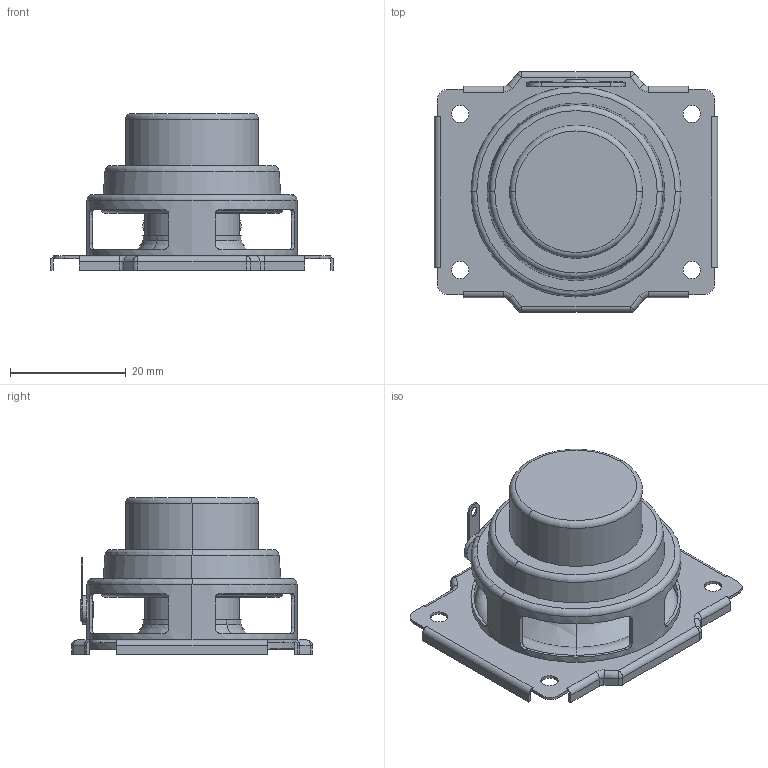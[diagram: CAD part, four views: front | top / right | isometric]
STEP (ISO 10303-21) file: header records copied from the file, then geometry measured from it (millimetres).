
FILE_DESCRIPTION((''),'2;1');
FILE_NAME('042B8A06-E_ASM','2023-09-25T08:33:40',('54257'),(''),'CREO PARAMETRIC BY PTC INC, 2020053','CREO PARAMETRIC BY PTC INC, 2020053','');
FILE_SCHEMA(('CONFIG_CONTROL_DESIGN','SHAPE_APPEARANCE_LAYERS_GROUPS'));
Length unit declared in the file: millimetre
Products named in the file (10): 061-49_9_1_1; U-YOK_1_1_2_1_1; CON-38_5_2_1_2_1_1; 3D-TIESANJIAO-70BT_ASM_2_ASM__1_ASM; 1314-0000075_1_1; 3D-TIESANJIAO-70BT-B_ASM_1_1_ASM; CAP-01; VOICE_COIL; DAMPER_01; 042B8A06-E_ASM
Assembly tree (9 placements, depth 4):
  042B8A06-E_ASM
    3D-TIESANJIAO-70BT-B_ASM_1_1_ASM
      3D-TIESANJIAO-70BT_ASM_2_ASM__1_ASM
        061-49_9_1_1
        U-YOK_1_1_2_1_1
        CON-38_5_2_1_2_1_1
      1314-0000075_1_1
    CAP-01
    VOICE_COIL
    DAMPER_01
Bounding box: 49 x 41.6 x 27.1 mm (x, y, z)
Volume: 5956.9 mm3; surface area: 16396.5 mm2
Topology: 7 solids, 7 shells, 294 faces, 734 edges, 460 vertices
Faces by surface type: plane 115, cylinder 90, cone 41, torus 36, sphere 8, revolution 4
Entity records: 13636 total; most frequent: CARTESIAN_POINT 1861, DIRECTION 1640, ORIENTED_EDGE 1452, PRESENTATION_STYLE_ASSIGNMENT 1031, STYLED_ITEM 1031, CURVE_STYLE 730, EDGE_CURVE 726, AXIS2_PLACEMENT_3D 644
